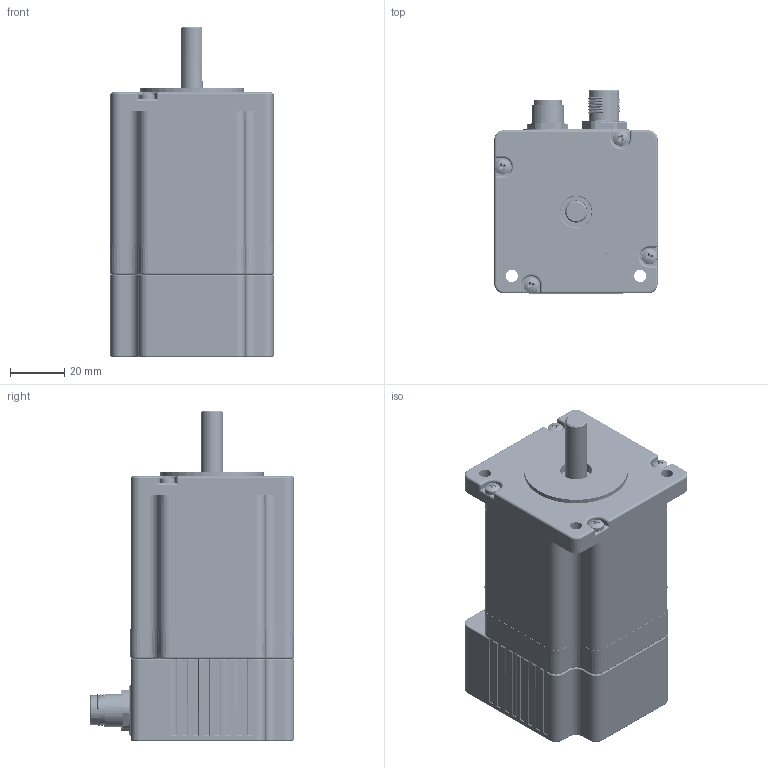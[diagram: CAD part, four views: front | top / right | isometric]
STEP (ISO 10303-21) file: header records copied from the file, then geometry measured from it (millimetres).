
FILE_DESCRIPTION (( 'STEP AP214' ), '1' );
FILE_NAME ('M60SH65-TO0512L05C.STEP', '2025-06-12T08:40:33', ( '' ), ( '' ), 'SwSTEP 2.0', 'SolidWorks 2019', '' );
FILE_SCHEMA (( 'AUTOMOTIVE_DESIGN' ));
Length unit declared in the file: millimetre
Products named in the file (1): M60SH65-TO0512L05C
Bounding box: 60.19 x 75 x 121.3 mm (x, y, z)
Volume: 174436.7 mm3; surface area: 96029.2 mm2
Topology: 19 solids, 19 shells, 5616 faces, 14528 edges, 9102 vertices
Faces by surface type: plane 1980, cylinder 1611, bspline 754, torus 638, cone 564, sphere 69
Entity records: 260937 total; most frequent: CARTESIAN_POINT 79542, ORIENTED_EDGE 28876, DIRECTION 26935, EDGE_CURVE 14438, AXIS2_PLACEMENT_3D 10019, VERTEX_POINT 9102, LINE 6897, VECTOR 6897
